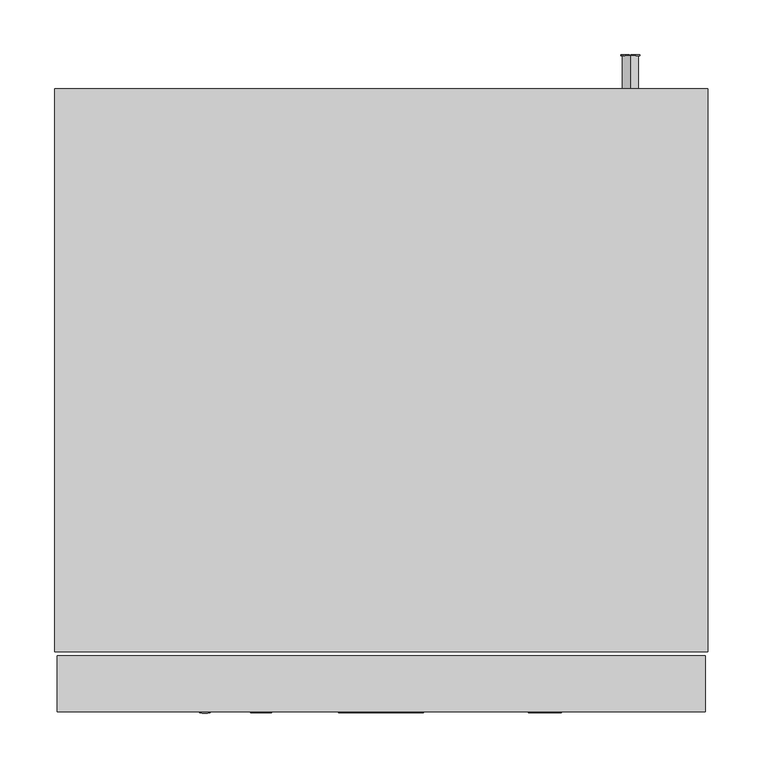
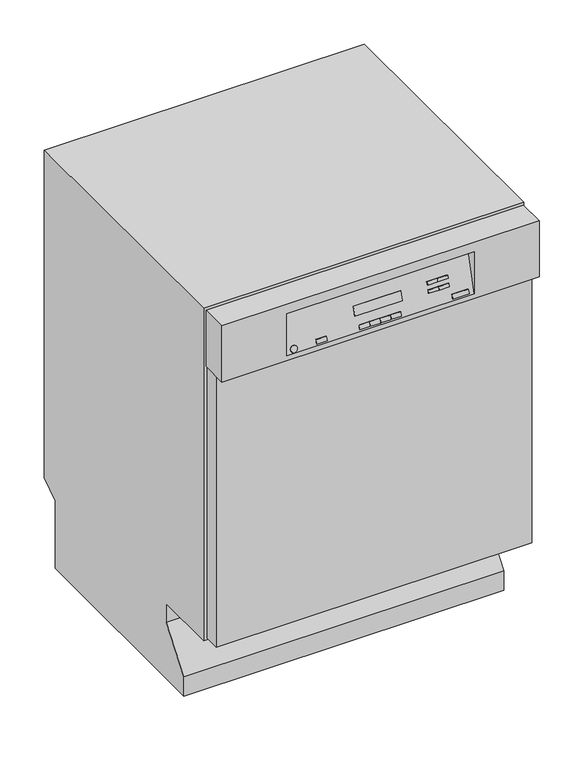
"""IFC4 building model written with IfcOpenShell, lengths in millimetres: proxy geometry, 10638020_ZER_PG8130i_ED : 61813047_ZER_10638020_PG8130i_ED."""

from ifc_helpers import new_model, si_unit, point, frame, frame_2d, origin, origin_with_axes, place, context, project, spatial, polyline, circle_curve, trimmed, segment, composite_curve, outline, extrude, faceted_brep, source, transform, mapped, element, save


def specialty_equipment_8d9b36a3(model_context):
    return source(origin(), model_context, "Body", "SolidModel", [
        extrude(outline(polyline([(295.0, 50.0), (295.0, 21.0), (-295.0, 21.0), (-295.0, 50.0), (295.0, 50.0)])), frame((0.0, 0.0, 155.0), z_axis=(0.0, 0.0, 1.0), x_axis=(1.0, 0.0, 0.0)), (0.0, 0.0, 1.0), 535.0),
        extrude(outline(polyline([(115.0, 253.6620752), (125.045631, 253.6620752), (125.045631, 249.9391094), (124.9499817, 248.4381509), (124.480319, 247.2180089), (123.5091105, 246.4270626), (122.1393633, 246.1278519), (119.9688595, 246.9359661), (119.0810376, 249.8532703), (119.0810376, 252.4063713), (115.0, 252.4063713), (115.0, 253.6620752)]), holes=[polyline([(120.3367415, 252.4063713), (120.3367415, 249.7796939), (120.7978202, 247.9304737), (122.0952174, 247.3835558), (123.1350972, 247.7060657), (123.704088, 248.5534206), (123.7899271, 249.8091244), (123.7899271, 252.4063713), (120.3367415, 252.4063713)])]), frame((0.0, 565.0, 0.0), z_axis=(0.0, 1.0, 0.0), x_axis=(0.0, 0.0, 1.0)), (0.0, 0.0, 1.0), 1.0),
        extrude(outline(polyline([(115.0, 245.5711239), (125.045631, 241.5612101), (125.045631, 240.4918998), (115.0, 236.481986), (115.0, 237.8088138), (118.1392597, 238.9590581), (118.1392597, 243.0965043), (115.0, 244.2442961), (115.0, 245.5711239)]), holes=[polyline([(119.3949636, 242.6354255), (119.3949636, 239.4176843), (121.864678, 240.3226741), (123.7899271, 241.0265549), (122.0805021, 241.6519543), (119.3949636, 242.6354255)])]), frame((0.0, 565.0, 0.0), z_axis=(0.0, 1.0, 0.0), x_axis=(0.0, 0.0, 1.0)), (0.0, 0.0, 1.0), 1.0),
        extrude(outline(polyline([(25.0, 183.3772603), (35.045631, 183.3772603), (35.045631, 176.156963), (33.7899271, 176.156963), (33.7899271, 182.1215564), (30.8076304, 182.1215564), (30.8076304, 176.470889), (29.5519266, 176.470889), (29.5519266, 182.1215564), (26.2557039, 182.1215564), (26.2557039, 176.0), (25.0, 176.0), (25.0, 183.3772603)])), frame((0.0, 565.0, 0.0), z_axis=(0.0, 1.0, 0.0), x_axis=(0.0, 0.0, 1.0)), (0.0, 0.0, 1.0), 1.0),
        extrude(outline(polyline([(25.0, 174.1164442), (35.045631, 174.1164442), (35.045631, 172.8607403), (26.2557039, 172.8607403), (26.2557039, 167.8379248), (25.0, 167.8379248), (25.0, 174.1164442)])), frame((0.0, 565.0, 0.0), z_axis=(0.0, 1.0, 0.0), x_axis=(0.0, 0.0, 1.0)), (0.0, 0.0, 1.0), 1.0),
        extrude(outline(polyline([(75.0, 195.3849286), (85.045631, 195.3849286), (85.045631, 188.1646313), (83.7899271, 188.1646313), (83.7899271, 194.1292247), (80.8076304, 194.1292247), (80.8076304, 188.4785573), (79.5519266, 188.4785573), (79.5519266, 194.1292247), (76.2557039, 194.1292247), (76.2557039, 188.0076683), (75.0, 188.0076683), (75.0, 195.3849286)])), frame((0.0, 565.0, 0.0), z_axis=(0.0, 1.0, 0.0), x_axis=(0.0, 0.0, 1.0)), (0.0, 0.0, 1.0), 1.0),
        extrude(outline(polyline([(75.0, 186.1241125), (85.045631, 186.1241125), (85.045631, 184.8684086), (76.2557039, 184.8684086), (76.2557039, 179.8455931), (75.0, 179.8455931), (75.0, 186.1241125)])), frame((0.0, 565.0, 0.0), z_axis=(0.0, 1.0, 0.0), x_axis=(0.0, 0.0, 1.0)), (0.0, 0.0, 1.0), 1.0),
        extrude(outline(polyline([(175.2936666, 566.0), (179.2177412, 566.0), (179.2177412, 565.0), (175.2936666, 565.0), (175.2936666, 566.0)])), frame((0.0, 0.0, 77.9822967), z_axis=(0.0, 0.0, 1.0), x_axis=(1.0, 0.0, 0.0)), (0.0, 0.0, 1.0), 1.2557039),
        extrude(outline(polyline([(75.0, 173.7240367), (85.045631, 173.7240367), (85.045631, 170.2585883), (84.9009308, 168.4657767), (84.1823346, 166.9893437), (82.465552, 165.7998585), (80.0767715, 165.4049985), (78.0497417, 165.6723261), (76.5867977, 166.3590392), (75.6756766, 167.2762916), (75.1716783, 168.4768132), (75.0, 170.0918152), (75.0, 173.7240367)]), holes=[polyline([(76.2557039, 172.4683328), (76.2557039, 170.2463256), (76.4371923, 168.6300974), (76.9497746, 167.6981296), (78.1968945, 166.9341614), (80.0963919, 166.6607024), (82.4753621, 167.1965839), (83.5888183, 168.5001124), (83.7899271, 170.2806612), (83.7899271, 172.4683328), (76.2557039, 172.4683328)])]), frame((0.0, 565.0, 0.0), z_axis=(0.0, 1.0, 0.0), x_axis=(0.0, 0.0, 1.0)), (0.0, 0.0, 1.0), 1.0),
        extrude(outline(polyline([(78.4531857, 164.1492947), (78.4531857, 162.8935908), (77.1962555, 162.4889206), (76.4016304, 161.5005443), (76.0987409, 159.9946807), (76.328054, 158.6825682), (76.9583585, 157.8352134), (77.8008083, 157.5568493), (78.5843969, 157.7653158), (79.154614, 158.618802), (79.6340869, 160.4471755), (80.2533549, 162.4153442), (81.1877752, 163.4834283), (82.4361214, 163.8353687), (83.8573722, 163.4000417), (84.8604637, 162.1283962), (85.202594, 160.2669133), (84.8445222, 158.2803506), (83.7923797, 156.9559754), (82.2202973, 156.4581084), (82.2202973, 157.7138123), (83.5103368, 158.4250508), (83.9468901, 160.2178624), (83.5152419, 162.0155791), (82.4729096, 162.5796648), (81.6022555, 162.1798997), (80.9008272, 160.1295707), (80.2705227, 157.9075635), (79.2527159, 156.6923266), (77.8326914, 156.3011454), (76.3305065, 156.7511877), (75.2342182, 158.0461324), (74.843037, 159.9456297), (75.264875, 162.1884836), (76.5352942, 163.6072819), (78.4531857, 164.1492947)])), frame((0.0, 565.0, 0.0), z_axis=(0.0, 1.0, 0.0), x_axis=(0.0, 0.0, 1.0)), (0.0, 0.0, 1.0), 1.0),
        extrude(outline(polyline([(57.0, -50.3136153), (67.045631, -54.323529), (67.045631, -55.3928394), (57.0, -59.4027531), (57.0, -58.0759254), (60.1392597, -56.925681), (60.1392597, -52.7882348), (57.0, -51.640443), (57.0, -50.3136153)]), holes=[polyline([(61.3949636, -53.2493136), (61.3949636, -56.4670548), (63.864678, -55.5620651), (65.7899271, -54.8581842), (64.0805021, -54.2327848), (61.3949636, -53.2493136)])]), frame((0.0, 565.0, 0.0), z_axis=(0.0, 1.0, 0.0), x_axis=(0.0, 0.0, 1.0)), (0.0, 0.0, 1.0), 1.0),
        extrude(outline(polyline([(57.0, -62.5420128), (67.045631, -59.8025182), (67.045631, -61.0974628), (60.4433755, -62.6867131), (58.4053092, -63.1772224), (60.207931, -63.7020674), (67.045631, -65.6935352), (67.045631, -67.5599232), (62.0890343, -69.0069257), (58.4053092, -70.0835937), (60.3845144, -70.5593878), (67.045631, -72.1633533), (67.045631, -73.4582979), (57.0, -70.7163507), (57.0, -69.3748077), (64.7500474, -66.9664069), (65.8316204, -66.630408), (64.5293182, -66.2527159), (57.0, -64.0576866), (57.0, -62.5420128)])), frame((0.0, 565.0, 0.0), z_axis=(0.0, 1.0, 0.0), x_axis=(0.0, 0.0, 1.0)), (0.0, 0.0, 1.0), 1.0),
        extrude(outline(polyline([(82.2, -35.5517371), (92.245631, -35.5517371), (92.245631, -36.807441), (87.328275, -36.807441), (92.245631, -41.9577889), (92.245631, -43.7138123), (88.1155425, -39.3899726), (82.2, -43.8707753), (82.2, -42.3354811), (87.2669613, -38.4996981), (85.6531857, -36.807441), (82.2, -36.807441), (82.2, -35.5517371)])), frame((0.0, 565.0, 0.0), z_axis=(0.0, 1.0, 0.0), x_axis=(0.0, 0.0, 1.0)), (0.0, 0.0, 1.0), 1.0),
        extrude(outline(polyline([(82.2, -46.6102699), (92.245631, -43.8707753), (92.245631, -45.1657199), (85.6433755, -46.7549701), (83.6053092, -47.2454794), (85.407931, -47.7703244), (92.245631, -49.7617923), (92.245631, -51.6281803), (87.2890343, -53.0751828), (83.6053092, -54.1518508), (85.5845144, -54.6276448), (92.245631, -56.2316103), (92.245631, -57.5265549), (82.2, -54.7846078), (82.2, -53.4430648), (89.9500474, -51.034664), (91.0316204, -50.6986651), (89.7293182, -50.3209729), (82.2, -48.1259437), (82.2, -46.6102699)])), frame((0.0, 565.0, 0.0), z_axis=(0.0, 1.0, 0.0), x_axis=(0.0, 0.0, 1.0)), (0.0, 0.0, 1.0), 1.0),
        extrude(outline(polyline([(82.2, -57.6835179), (92.245631, -60.5088516), (92.245631, -61.6419282), (82.2, -58.8165945), (82.2, -57.6835179)])), frame((0.0, 565.0, 0.0), z_axis=(0.0, 1.0, 0.0), x_axis=(0.0, 0.0, 1.0)), (0.0, 0.0, 1.0), 1.0),
        extrude(outline(polyline([(82.2, -64.5040501), (92.245631, -61.7645555), (92.245631, -63.0595001), (85.6433755, -64.6487504), (83.6053092, -65.1392597), (85.407931, -65.6641047), (92.245631, -67.6555725), (92.245631, -69.5219605), (87.2890343, -70.968963), (83.6053092, -72.045631), (85.5845144, -72.5214251), (92.245631, -74.1253906), (92.245631, -75.4203352), (82.2, -72.678388), (82.2, -71.336845), (89.9500474, -68.9284442), (91.0316204, -68.5924454), (89.7293182, -68.2147532), (82.2, -66.0197239), (82.2, -64.5040501)])), frame((0.0, 565.0, 0.0), z_axis=(0.0, 1.0, 0.0), x_axis=(0.0, 0.0, 1.0)), (0.0, 0.0, 1.0), 1.0),
        extrude(outline(polyline([(82.2, -78.4737557), (92.245631, -75.7342612), (92.245631, -77.0292058), (85.6433755, -78.618456), (83.6053092, -79.1089653), (85.407931, -79.6338103), (92.245631, -81.6252782), (92.245631, -83.4916662), (87.2890343, -84.9386687), (83.6053092, -86.0153366), (85.5845144, -86.4911307), (92.245631, -88.0950962), (92.245631, -89.3900408), (82.2, -86.6480937), (82.2, -85.3065507), (89.9500474, -82.8981499), (91.0316204, -82.562151), (89.7293182, -82.1844588), (82.2, -79.9894296), (82.2, -78.4737557)])), frame((0.0, 565.0, 0.0), z_axis=(0.0, 1.0, 0.0), x_axis=(0.0, 0.0, 1.0)), (0.0, 0.0, 1.0), 1.0),
        extrude(outline(polyline([(167.0, 236.5544827), (177.045631, 236.5544827), (177.045631, 233.0890343), (176.9009308, 231.2962227), (176.1823346, 229.8197896), (174.465552, 228.6303045), (172.0767715, 228.2354445), (170.0497417, 228.5027721), (168.5867977, 229.1894851), (167.6756766, 230.1067376), (167.1716783, 231.3072591), (167.0, 232.9222611), (167.0, 236.5544827)]), holes=[polyline([(168.2557039, 235.2987788), (168.2557039, 233.0767715), (168.4371923, 231.4605433), (168.9497746, 230.5285756), (170.1968945, 229.7646073), (172.0963919, 229.4911484), (174.4753621, 230.0270298), (175.5888183, 231.3305583), (175.7899271, 233.1111072), (175.7899271, 235.2987788), (168.2557039, 235.2987788)])]), frame((0.0, 600.0, 0.0), z_axis=(0.0, 1.0, 0.0), x_axis=(0.0, 0.0, 1.0)), (0.0, 0.0, 1.0), 1.0),
        extrude(outline(polyline([(170.4531857, 226.9797406), (170.4531857, 225.7240367), (169.1962555, 225.3193665), (168.4016304, 224.3309902), (168.0987409, 222.8251266), (168.328054, 221.5130142), (168.9583585, 220.6656593), (169.8008083, 220.3872952), (170.5843969, 220.5957617), (171.154614, 221.4492479), (171.6340869, 223.2776215), (172.2533549, 225.2457901), (173.1877752, 226.3138742), (174.4361214, 226.6658146), (175.8573722, 226.2304876), (176.8604637, 224.9588422), (177.202594, 223.0973593), (176.8445222, 221.1107965), (175.7923797, 219.7864213), (174.2202973, 219.2885544), (174.2202973, 220.5442582), (175.5103368, 221.2554968), (175.9468901, 223.0483083), (175.5152419, 224.846025), (174.4729096, 225.4101108), (173.6022555, 225.0103457), (172.9008272, 222.9600167), (172.2705227, 220.7380094), (171.2527159, 219.5227726), (169.8326914, 219.1315914), (168.3305065, 219.5816337), (167.2342182, 220.8765783), (166.843037, 222.7760757), (167.264875, 225.0189296), (168.5352942, 226.4377278), (170.4531857, 226.9797406)])), frame((0.0, 600.0, 0.0), z_axis=(0.0, 1.0, 0.0), x_axis=(0.0, 0.0, 1.0)), (0.0, 0.0, 1.0), 1.0),
        extrude(outline(composite_curve([segment(trimmed(circle_curve(frame_2d((172.0, 228.0)), 7.5), [point((164.5, 228.0))], [point((179.5, 228.0))], False, "CARTESIAN"), True, "CONTINUOUS"), segment(trimmed(circle_curve(frame_2d((172.0, 228.0)), 7.5), [point((179.5, 228.0))], [point((164.5, 228.0))], False, "CARTESIAN"), True, "CONTINUOUS")], self_intersect=False)), frame((0.0, 570.0, 0.0), z_axis=(0.0, 1.0, 0.0), x_axis=(0.0, 0.0, 1.0)), (0.0, 0.0, 1.0), 30.0),
        extrude(outline(composite_curve([segment(trimmed(circle_curve(frame_2d((120.0, 245.5)), 7.5), [point((112.5, 245.5))], [point((127.5, 245.5))], False, "CARTESIAN"), True, "CONTINUOUS"), segment(trimmed(circle_curve(frame_2d((120.0, 245.5)), 7.5), [point((127.5, 245.5))], [point((112.5, 245.5))], False, "CARTESIAN"), True, "CONTINUOUS")], self_intersect=False)), frame((0.0, 535.0, 0.0), z_axis=(0.0, 1.0, 0.0), x_axis=(0.0, 0.0, 1.0)), (0.0, 0.0, 1.0), 30.0),
        extrude(outline(composite_curve([segment(trimmed(circle_curve(frame_2d((80.0, 176.0)), 7.5), [point((72.5, 176.0))], [point((87.5, 176.0))], False, "CARTESIAN"), True, "CONTINUOUS"), segment(trimmed(circle_curve(frame_2d((80.0, 176.0)), 7.5), [point((87.5, 176.0))], [point((72.5, 176.0))], False, "CARTESIAN"), True, "CONTINUOUS")], self_intersect=False)), frame((0.0, 535.0, 0.0), z_axis=(0.0, 1.0, 0.0), x_axis=(0.0, 0.0, 1.0)), (0.0, 0.0, 1.0), 30.0),
        faceted_brep([(-268.5, 557.0, 775.0), (-268.5, 55.0, 775.0), (-268.5, 55.0, 170.0), (-268.5, 557.0, 170.0), (268.5, 557.0, 775.0), (268.5, 557.0, 170.0), (268.5, 55.0, 170.0), (268.5, 55.0, 775.0), (299.0, 55.0, 805.0), (299.0, 55.0, 148.0), (299.0, 175.7, 148.0), (299.0, 175.7, 111.956673), (299.0, 118.7, 39.0), (299.0, 118.7, 0.0), (299.0, 535.0, 0.0), (299.0, 535.0, 134.0), (299.0, 570.0, 158.0), (299.0, 570.0, 805.0), (-299.0, 55.0, 805.0), (-299.0, 570.0, 805.0), (-299.0, 570.0, 158.0), (-299.0, 535.0, 134.0), (-299.0, 535.0, 0.0), (-299.0, 118.7, 0.0), (-299.0, 118.7, 39.0), (-299.0, 175.7, 111.956673), (-299.0, 175.7, 148.0), (-299.0, 55.0, 148.0), (-274.5, 525.0, 0.0), (-274.5, 142.0, 0.0), (274.5, 142.0, 0.0), (274.5, 525.0, 0.0), (-274.5, 525.0, 5.0), (-274.5, 142.0, 5.0), (274.5, 142.0, 5.0), (274.5, 525.0, 5.0)], [[[0, 1, 2, 3]], [[4, 5, 6, 7]], [[0, 3, 5, 4]], [[3, 2, 6, 5]], [[1, 0, 4, 7]], [[8, 9, 10, 11, 12, 13, 14, 15, 16, 17]], [[18, 19, 20, 21, 22, 23, 24, 25, 26, 27]], [[9, 8, 18, 27], [2, 1, 7, 6]], [[10, 9, 27, 26]], [[11, 10, 26, 25]], [[12, 11, 25, 24]], [[13, 12, 24, 23]], [[14, 13, 23, 22], [28, 29, 30, 31]], [[15, 14, 22, 21]], [[16, 15, 21, 20]], [[17, 16, 20, 19]], [[8, 17, 19, 18]], [[32, 33, 29, 28]], [[34, 35, 31, 30]], [[35, 32, 28, 31]], [[33, 34, 30, 29]], [[33, 32, 35, 34]]]),
        extrude(outline(composite_curve([segment(trimmed(circle_curve(frame_2d((-246.0, 505.0)), 15.0), [point((-246.0, 520.0))], [point((-246.0, 490.0))], False, "CARTESIAN"), True, "CONTINUOUS"), segment(trimmed(circle_curve(frame_2d((-246.0, 505.0)), 15.0), [point((-246.0, 490.0))], [point((-246.0, 520.0))], False, "CARTESIAN"), True, "CONTINUOUS")], self_intersect=False)), origin_with_axes(), (0.0, 0.0, 1.0), 5.0),
        extrude(outline(composite_curve([segment(trimmed(circle_curve(frame_2d((246.0, 505.0)), 15.0), [point((246.0, 520.0))], [point((246.0, 490.0))], False, "CARTESIAN"), True, "CONTINUOUS"), segment(trimmed(circle_curve(frame_2d((246.0, 505.0)), 15.0), [point((246.0, 490.0))], [point((246.0, 520.0))], False, "CARTESIAN"), True, "CONTINUOUS")], self_intersect=False)), origin_with_axes(), (0.0, 0.0, 1.0), 5.0),
        extrude(outline(composite_curve([segment(trimmed(circle_curve(frame_2d((-243.5, 162.0)), 15.0), [point((-258.5, 162.0))], [point((-228.5, 162.0))], False, "CARTESIAN"), True, "CONTINUOUS"), segment(trimmed(circle_curve(frame_2d((-243.5, 162.0)), 15.0), [point((-228.5, 162.0))], [point((-258.5, 162.0))], False, "CARTESIAN"), True, "CONTINUOUS")], self_intersect=False)), origin_with_axes(), (0.0, 0.0, 1.0), 5.0),
        extrude(outline(composite_curve([segment(trimmed(circle_curve(frame_2d((243.5, 162.0)), 15.0), [point((228.5, 162.0))], [point((258.5, 162.0))], False, "CARTESIAN"), True, "CONTINUOUS"), segment(trimmed(circle_curve(frame_2d((243.5, 162.0)), 15.0), [point((258.5, 162.0))], [point((228.5, 162.0))], False, "CARTESIAN"), True, "CONTINUOUS")], self_intersect=False)), origin_with_axes(), (0.0, 0.0, 1.0), 5.0),
        extrude(outline(composite_curve([segment(trimmed(circle_curve(frame_2d((87.2, -62.0)), 7.5), [point((79.7, -62.0))], [point((94.7, -62.0))], False, "CARTESIAN"), True, "CONTINUOUS"), segment(trimmed(circle_curve(frame_2d((87.2, -62.0)), 7.5), [point((94.7, -62.0))], [point((79.7, -62.0))], False, "CARTESIAN"), True, "CONTINUOUS")], self_intersect=False)), frame((0.0, 535.0, 0.0), z_axis=(0.0, 1.0, 0.0), x_axis=(0.0, 0.0, 1.0)), (0.0, 0.0, 1.0), 30.0),
        extrude(outline(composite_curve([segment(trimmed(circle_curve(frame_2d((62.0, -62.0)), 7.5), [point((54.5, -62.0))], [point((69.5, -62.0))], False, "CARTESIAN"), True, "CONTINUOUS"), segment(trimmed(circle_curve(frame_2d((62.0, -62.0)), 7.5), [point((69.5, -62.0))], [point((54.5, -62.0))], False, "CARTESIAN"), True, "CONTINUOUS")], self_intersect=False)), frame((0.0, 535.0, 0.0), z_axis=(0.0, 1.0, 0.0), x_axis=(0.0, 0.0, 1.0)), (0.0, 0.0, 1.0), 30.0),
        extrude(outline(composite_curve([segment(trimmed(circle_curve(frame_2d((30.0, 176.0)), 7.5), [point((22.5, 176.0))], [point((37.5, 176.0))], False, "CARTESIAN"), True, "CONTINUOUS"), segment(trimmed(circle_curve(frame_2d((30.0, 176.0)), 7.5), [point((37.5, 176.0))], [point((22.5, 176.0))], False, "CARTESIAN"), True, "CONTINUOUS")], self_intersect=False)), frame((0.0, 535.0, 0.0), z_axis=(0.0, 1.0, 0.0), x_axis=(0.0, 0.0, 1.0)), (0.0, 0.0, 1.0), 30.0),
        extrude(outline(polyline([(0.0, -88.5), (0.0, 0.0), (1.0, 0.0), (1.0, -88.5), (0.0, -88.5)])), frame((-44.25, 7.0287424, 729.1634753), z_axis=(0.0, 0.258819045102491, 0.9659258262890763), x_axis=(0.0, 0.9659258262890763, -0.258819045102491)), (0.0, 0.0, 1.0), 17.5453985),
        faceted_brep([(296.5, 51.0, 803.0), (296.5, 51.0, 692.0), (-296.5, 51.0, 692.0), (-296.5, 51.0, 803.0), (296.5, 0.0, 803.0), (-296.5, 0.0, 803.0), (-296.5, 0.0, 692.0), (296.5, 0.0, 692.0), (175.0, 0.0, 784.0), (175.0, 0.0, 701.0), (-175.0, 0.0, 701.0), (-175.0, 0.0, 784.0), (175.0, 20.2635678, 776.6246645), (-175.0, 20.2635678, 776.6246645)], [[[0, 1, 2, 3]], [[4, 5, 6, 7], [8, 9, 10, 11]], [[1, 0, 4, 7]], [[2, 1, 7, 6]], [[3, 2, 6, 5]], [[0, 3, 5, 4]], [[8, 12, 9]], [[10, 13, 11]], [[9, 12, 13, 10]], [[12, 8, 11, 13]]]),
        extrude(outline(polyline([(0.0, -19.0), (0.0, 0.0), (2.0, 0.0), (2.0, -19.0), (0.0, -19.0)])), frame((112.5, 8.7890473, 741.5285777), z_axis=(0.0, 0.25881904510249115, 0.9659258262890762), x_axis=(0.0, 0.9659258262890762, -0.25881904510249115)), (0.0, 0.0, 1.0), 6.0),
        extrude(outline(polyline([(0.0, -19.0), (0.0, 0.0), (2.0, 0.0), (2.0, -19.0), (0.0, -19.0)])), frame((92.9551655, 8.7890473, 741.5285777), z_axis=(0.0, 0.25881904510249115, 0.9659258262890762), x_axis=(0.0, 0.9659258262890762, -0.25881904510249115)), (0.0, 0.0, 1.0), 6.0),
        extrude(outline(polyline([(0.0, -19.0), (0.0, 0.0), (2.0, 0.0), (2.0, -19.0), (0.0, -19.0)])), frame((112.5, 5.0403886, 727.5383931), z_axis=(0.0, 0.25881904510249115, 0.9659258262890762), x_axis=(0.0, 0.9659258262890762, -0.25881904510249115)), (0.0, 0.0, 1.0), 6.0),
        extrude(outline(polyline([(0.0, -19.0), (0.0, 0.0), (2.0, 0.0), (2.0, -19.0), (0.0, -19.0)])), frame((92.9551655, 5.0403886, 727.5383931), z_axis=(0.0, 0.25881904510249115, 0.9659258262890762), x_axis=(0.0, 0.9659258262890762, -0.25881904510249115)), (0.0, 0.0, 1.0), 6.0),
        extrude(outline(polyline([(0.0, -30.5), (0.0, 0.0), (1.9999999, 0.0), (1.9999999, -30.5), (0.0, -30.5)])), frame((134.5, -0.8327366, 705.6195912), z_axis=(0.0, 0.25881904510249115, 0.9659258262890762), x_axis=(0.0, 0.9659258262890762, -0.25881904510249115)), (0.0, 0.0, 1.0), 8.0),
        extrude(outline(polyline([(0.0, -19.0), (0.0, 0.0), (2.0, 0.0), (2.0, -19.0), (0.0, -19.0)])), frame((19.5, -0.8567127, 705.5301112), z_axis=(0.0, 0.25881904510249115, 0.9659258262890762), x_axis=(0.0, 0.9659258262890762, -0.25881904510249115)), (0.0, 0.0, 1.0), 8.0),
        extrude(outline(polyline([(0.0, -19.0), (0.0, 0.0), (2.0, 0.0), (2.0, -19.0), (0.0, -19.0)])), frame((-0.0212108, -0.8567127, 705.5301112), z_axis=(0.0, 0.25881904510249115, 0.9659258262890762), x_axis=(0.0, 0.9659258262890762, -0.25881904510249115)), (0.0, 0.0, 1.0), 8.0),
        extrude(outline(polyline([(0.0, -19.0), (0.0, 0.0), (2.0, 0.0), (2.0, -19.0), (0.0, -19.0)])), frame((-19.5310315, -0.8567127, 705.5301112), z_axis=(0.0, 0.2588190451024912, 0.9659258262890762), x_axis=(0.0, 0.9659258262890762, -0.2588190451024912)), (0.0, 0.0, 1.0), 8.0),
        extrude(outline(polyline([(0.0, -19.0), (0.0, 0.0), (2.0, 0.0), (2.0, -19.0), (0.0, -19.0)])), frame((-39.0235312, -0.8567127, 705.5301112), z_axis=(0.0, 0.2588190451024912, 0.9659258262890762), x_axis=(0.0, 0.9659258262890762, -0.2588190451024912)), (0.0, 0.0, 1.0), 8.0),
        extrude(outline(polyline([(0.0, -19.0), (0.0, 0.0), (2.0, 0.0), (2.0, -19.0), (0.0, -19.0)])), frame((-119.5, -0.8567127, 705.5301112), z_axis=(0.0, 0.2588190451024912, 0.9659258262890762), x_axis=(0.0, 0.9659258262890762, -0.2588190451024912)), (0.0, 0.0, 1.0), 8.0),
        extrude(outline(composite_curve([segment(trimmed(circle_curve(frame_2d((-3.9339264, 296.0)), 6.25), [point((2.3160736, 296.0))], [point((-10.1839264, 296.0))], False, "CARTESIAN"), True, "CONTINUOUS"), segment(trimmed(circle_curve(frame_2d((-3.9339264, 296.0)), 6.25), [point((-10.1839264, 296.0))], [point((2.3160736, 296.0))], False, "CARTESIAN"), True, "CONTINUOUS")], self_intersect=False)), frame((134.5, 3.1696674, 712.8293598), z_axis=(0.0, -0.9659258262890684, 0.2588190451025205), x_axis=(0.0, 0.2588190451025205, 0.9659258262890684)), (0.0, 0.0, 1.0), 2.0),
    ])


if __name__ == "__main__":
    model = new_model("IFC4")
    model_context = context("Model", 3, world=origin())
    ifc_project = project(units=[si_unit("LENGTHUNIT", "METRE", prefix="MILLI")], contexts=[model_context])
    site = spatial("IfcSite", under=ifc_project)
    building = spatial("IfcBuilding", under=site)
    placement = place(None, origin())
    specialty_equipment_shape = specialty_equipment_8d9b36a3(model_context)
    element("IfcBuildingElementProxy", 1, Name="10638020_ZER_PG8130i_ED : 61813047_ZER_10638020_PG8130i_ED", ObjectType="10638020_ZER_PG8130i_ED : 61813047_ZER_10638020_PG8130i_ED", at=placement, inside=building, context=model_context, shape_type="MappedRepresentation", body=[
        mapped(specialty_equipment_shape, transform((0.0, 0.0, 0.0), x_axis=(1.0, 0.0, 0.0), y_axis=(0.0, 1.0, 0.0), z_axis=(0.0, 0.0, 1.0))),
    ])
    save(model, "model.ifc")
